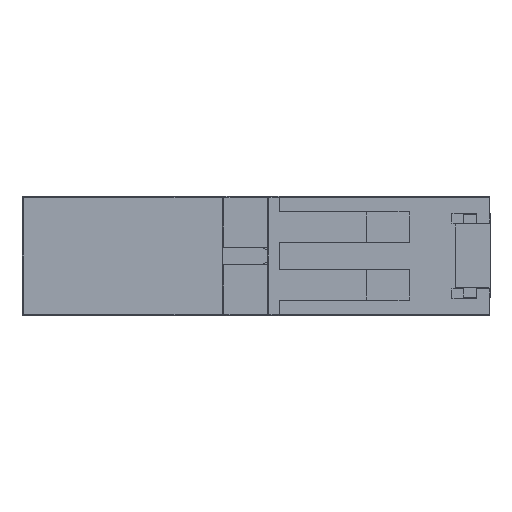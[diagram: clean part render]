
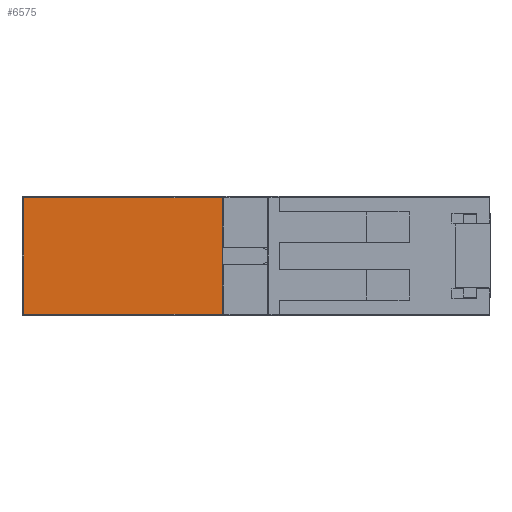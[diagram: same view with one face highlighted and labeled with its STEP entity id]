
A CAD part, left-side view. The second image highlights one B-rep face of the part: STEP entity #6575.
In plain terms, the highlighted planar face has unit normal (-1, 0, 0).
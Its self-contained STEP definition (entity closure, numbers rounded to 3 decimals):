
#16 = CARTESIAN_POINT ( 'NONE',  ( 11.499, 8.899, 6.4 ) ) ;
#123 = DIRECTION ( 'NONE',  ( 1., 0., 0. ) ) ;
#494 = VERTEX_POINT ( 'NONE', #15693 ) ;
#589 = VECTOR ( 'NONE', #29575, 1000. ) ;
#674 = CARTESIAN_POINT ( 'NONE',  ( 11.499, 2.549, 1.15 ) ) ;
#857 = VERTEX_POINT ( 'NONE', #26673 ) ;
#2393 = DIRECTION ( 'NONE',  ( 0., 0., -1. ) ) ;
#2582 = VERTEX_POINT ( 'NONE', #19032 ) ;
#3356 = ORIENTED_EDGE ( 'NONE', *, *, #7490, .F. ) ;
#3366 = VECTOR ( 'NONE', #13008, 1000. ) ;
#4421 = DIRECTION ( 'NONE',  ( 0., 0., -1. ) ) ;
#4644 = ORIENTED_EDGE ( 'NONE', *, *, #26858, .F. ) ;
#4931 = DIRECTION ( 'NONE',  ( 0., 1., 0. ) ) ;
#5023 = CARTESIAN_POINT ( 'NONE',  ( 11.499, 8.699, 6.2 ) ) ;
#5049 = VECTOR ( 'NONE', #25156, 1000. ) ;
#5162 = LINE ( 'NONE', #11971, #29706 ) ;
#5428 = DIRECTION ( 'NONE',  ( 0., 1., 0. ) ) ;
#5511 = EDGE_CURVE ( 'NONE', #11848, #25714, #23972, .T. ) ;
#5661 = CARTESIAN_POINT ( 'NONE',  ( 11.499, 8.049, 7.6 ) ) ;
#6307 = EDGE_CURVE ( 'NONE', #494, #11848, #21366, .T. ) ;
#6563 = CARTESIAN_POINT ( 'NONE',  ( 11.499, 8.699, -6.2 ) ) ;
#6575 = ADVANCED_FACE ( 'NONE', ( #13902 ), #28535, .F. ) ;
#6827 = VERTEX_POINT ( 'NONE', #22481 ) ;
#6857 = EDGE_CURVE ( 'NONE', #12355, #857, #6882, .T. ) ;
#6882 = LINE ( 'NONE', #10724, #589 ) ;
#7205 = DIRECTION ( 'NONE',  ( 0., 0., -1. ) ) ;
#7386 = DIRECTION ( 'NONE',  ( 0., 0., -1. ) ) ;
#7490 = EDGE_CURVE ( 'NONE', #2582, #29012, #8675, .T. ) ;
#7770 = ORIENTED_EDGE ( 'NONE', *, *, #17353, .T. ) ;
#8490 = CARTESIAN_POINT ( 'NONE',  ( 11.499, 34.849, 7.8 ) ) ;
#8526 = CARTESIAN_POINT ( 'NONE',  ( 11.499, 1.149, -7.6 ) ) ;
#8596 = VECTOR ( 'NONE', #2393, 1000. ) ;
#8675 = LINE ( 'NONE', #11486, #26146 ) ;
#8694 = VECTOR ( 'NONE', #25105, 1000. ) ;
#8917 = DIRECTION ( 'NONE',  ( 0., 0., -1. ) ) ;
#9099 = DIRECTION ( 'NONE',  ( 0., 0., -1. ) ) ;
#9590 = EDGE_CURVE ( 'NONE', #6827, #494, #23049, .T. ) ;
#9645 = AXIS2_PLACEMENT_3D ( 'NONE', #6563, #23176, #8917 ) ;
#9845 = LINE ( 'NONE', #13848, #21772 ) ;
#10289 = LINE ( 'NONE', #28158, #15903 ) ;
#10646 = VERTEX_POINT ( 'NONE', #29597 ) ;
#10655 = CARTESIAN_POINT ( 'NONE',  ( 11.499, 8.699, -6.4 ) ) ;
#10724 = CARTESIAN_POINT ( 'NONE',  ( 11.499, 1.149, 6.4 ) ) ;
#10764 = CARTESIAN_POINT ( 'NONE',  ( 11.499, 8.899, -6.2 ) ) ;
#10817 = AXIS2_PLACEMENT_3D ( 'NONE', #5023, #21640, #7386 ) ;
#10992 = EDGE_CURVE ( 'NONE', #10646, #2582, #10289, .T. ) ;
#11024 = CIRCLE ( 'NONE', #10817, 0.2 ) ;
#11486 = CARTESIAN_POINT ( 'NONE',  ( 11.499, 2.549, -1.15 ) ) ;
#11828 = CIRCLE ( 'NONE', #9645, 0.2 ) ;
#11848 = VERTEX_POINT ( 'NONE', #17577 ) ;
#11971 = CARTESIAN_POINT ( 'NONE',  ( 11.499, 1.149, -6.4 ) ) ;
#12066 = ORIENTED_EDGE ( 'NONE', *, *, #22602, .F. ) ;
#12156 = EDGE_CURVE ( 'NONE', #6827, #12355, #9845, .T. ) ;
#12355 = VERTEX_POINT ( 'NONE', #14549 ) ;
#13008 = DIRECTION ( 'NONE',  ( 0., 1., 0. ) ) ;
#13848 = CARTESIAN_POINT ( 'NONE',  ( 11.499, 1.999, 7.8 ) ) ;
#13902 = FACE_OUTER_BOUND ( 'NONE', #21540, .T. ) ;
#14005 = EDGE_CURVE ( 'NONE', #10646, #26563, #16835, .T. ) ;
#14281 = CARTESIAN_POINT ( 'NONE',  ( 11.499, 1.999, -6.4 ) ) ;
#14297 = CARTESIAN_POINT ( 'NONE',  ( 11.499, 8.049, 7.8 ) ) ;
#14549 = CARTESIAN_POINT ( 'NONE',  ( 11.499, 1.999, 6.4 ) ) ;
#14703 = VECTOR ( 'NONE', #7205, 1000. ) ;
#14793 = ORIENTED_EDGE ( 'NONE', *, *, #21072, .T. ) ;
#15693 = CARTESIAN_POINT ( 'NONE',  ( 11.499, 34.849, 7.6 ) ) ;
#15903 = VECTOR ( 'NONE', #9099, 1000. ) ;
#16690 = DIRECTION ( 'NONE',  ( 0., 1., 0. ) ) ;
#16835 = LINE ( 'NONE', #674, #28733 ) ;
#16968 = VERTEX_POINT ( 'NONE', #28215 ) ;
#17353 = EDGE_CURVE ( 'NONE', #29470, #19417, #11828, .T. ) ;
#17577 = CARTESIAN_POINT ( 'NONE',  ( 11.499, 34.849, -7.6 ) ) ;
#17981 = ORIENTED_EDGE ( 'NONE', *, *, #10992, .F. ) ;
#18618 = CARTESIAN_POINT ( 'NONE',  ( 11.499, 8.899, -1.15 ) ) ;
#19032 = CARTESIAN_POINT ( 'NONE',  ( 11.499, 2.549, -1.15 ) ) ;
#19417 = VERTEX_POINT ( 'NONE', #10764 ) ;
#19450 = CARTESIAN_POINT ( 'NONE',  ( 11.499, 8.899, -1.15 ) ) ;
#19691 = ORIENTED_EDGE ( 'NONE', *, *, #9590, .T. ) ;
#20338 = AXIS2_PLACEMENT_3D ( 'NONE', #14297, #123, #16690 ) ;
#20703 = VECTOR ( 'NONE', #26615, 1000. ) ;
#20775 = VERTEX_POINT ( 'NONE', #27177 ) ;
#21059 = LINE ( 'NONE', #14281, #14703 ) ;
#21072 = EDGE_CURVE ( 'NONE', #16968, #857, #11024, .T. ) ;
#21141 = EDGE_CURVE ( 'NONE', #29012, #19417, #21457, .T. ) ;
#21366 = LINE ( 'NONE', #8490, #8694 ) ;
#21457 = LINE ( 'NONE', #19450, #20703 ) ;
#21540 = EDGE_LOOP ( 'NONE', ( #23608, #19691, #25686, #22974, #12066, #22360, #7770, #26898, #3356, #17981, #23776, #4644, #14793, #24689 ) ) ;
#21640 = DIRECTION ( 'NONE',  ( 1., 0., 0. ) ) ;
#21772 = VECTOR ( 'NONE', #4421, 1000. ) ;
#22360 = ORIENTED_EDGE ( 'NONE', *, *, #28536, .T. ) ;
#22409 = CARTESIAN_POINT ( 'NONE',  ( 11.499, 8.899, 1.15 ) ) ;
#22481 = CARTESIAN_POINT ( 'NONE',  ( 11.499, 1.999, 7.6 ) ) ;
#22602 = EDGE_CURVE ( 'NONE', #20775, #25714, #21059, .T. ) ;
#22974 = ORIENTED_EDGE ( 'NONE', *, *, #5511, .T. ) ;
#23049 = LINE ( 'NONE', #5661, #3366 ) ;
#23176 = DIRECTION ( 'NONE',  ( 1., 0., 0. ) ) ;
#23608 = ORIENTED_EDGE ( 'NONE', *, *, #12156, .F. ) ;
#23776 = ORIENTED_EDGE ( 'NONE', *, *, #14005, .T. ) ;
#23972 = LINE ( 'NONE', #8526, #5049 ) ;
#24689 = ORIENTED_EDGE ( 'NONE', *, *, #6857, .F. ) ;
#25105 = DIRECTION ( 'NONE',  ( 0., 0., -1. ) ) ;
#25156 = DIRECTION ( 'NONE',  ( 0., -1., 0. ) ) ;
#25686 = ORIENTED_EDGE ( 'NONE', *, *, #6307, .T. ) ;
#25714 = VERTEX_POINT ( 'NONE', #30410 ) ;
#25718 = DIRECTION ( 'NONE',  ( 0., 1., 0. ) ) ;
#26146 = VECTOR ( 'NONE', #25718, 1000. ) ;
#26563 = VERTEX_POINT ( 'NONE', #22409 ) ;
#26615 = DIRECTION ( 'NONE',  ( 0., 0., -1. ) ) ;
#26673 = CARTESIAN_POINT ( 'NONE',  ( 11.499, 8.699, 6.4 ) ) ;
#26820 = LINE ( 'NONE', #16, #8596 ) ;
#26858 = EDGE_CURVE ( 'NONE', #16968, #26563, #26820, .T. ) ;
#26898 = ORIENTED_EDGE ( 'NONE', *, *, #21141, .F. ) ;
#27177 = CARTESIAN_POINT ( 'NONE',  ( 11.499, 1.999, -6.4 ) ) ;
#28158 = CARTESIAN_POINT ( 'NONE',  ( 11.499, 2.549, 1.15 ) ) ;
#28215 = CARTESIAN_POINT ( 'NONE',  ( 11.499, 8.899, 6.2 ) ) ;
#28535 = PLANE ( 'NONE',  #20338 ) ;
#28536 = EDGE_CURVE ( 'NONE', #20775, #29470, #5162, .T. ) ;
#28733 = VECTOR ( 'NONE', #5428, 1000. ) ;
#29012 = VERTEX_POINT ( 'NONE', #18618 ) ;
#29470 = VERTEX_POINT ( 'NONE', #10655 ) ;
#29575 = DIRECTION ( 'NONE',  ( 0., 1., 0. ) ) ;
#29597 = CARTESIAN_POINT ( 'NONE',  ( 11.499, 2.549, 1.15 ) ) ;
#29706 = VECTOR ( 'NONE', #4931, 1000. ) ;
#30410 = CARTESIAN_POINT ( 'NONE',  ( 11.499, 1.999, -7.6 ) ) ;
